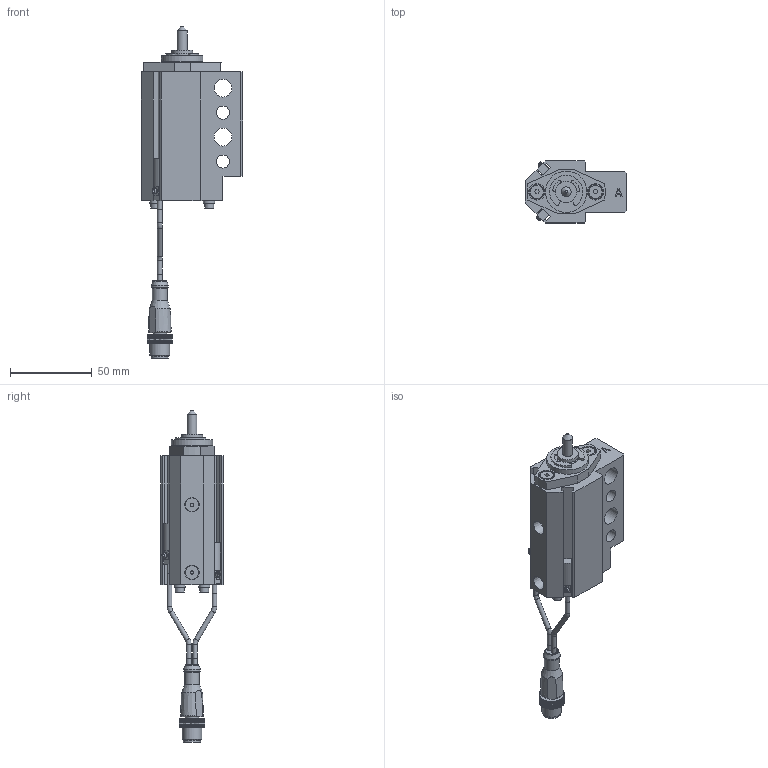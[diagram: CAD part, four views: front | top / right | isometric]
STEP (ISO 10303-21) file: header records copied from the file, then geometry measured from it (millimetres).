
FILE_DESCRIPTION(/* description */ ('NAAMS FLOATING MICRO PIN'),/* implementation_level */ '2;1');
FILE_NAME(/* name */ 'C:\Vault Workspace\CAD\Welker\Shot Pin\NMP\NMP060012AANL3.stp',/* time_stamp */ '2021-01-27T08:26:56-05:00',/* author */ ('KLabrecque'),/* organization */ (''),/* preprocessor_version */ 'ST-DEVELOPER v18.1',/* originating_system */ 'Autodesk Inventor 2020',/* authorisation */ '');
FILE_SCHEMA (('AUTOMOTIVE_DESIGN { 1 0 10303 214 3 1 1 }'));
Length unit declared in the file: millimetre
Products named in the file (16): NMPL01; NMP L3 SWITCH; L3 Connector; L3 Sensor 1; L3 Sensor 2; L3 Sensor cable; L3 Sensor cable 2; M3X0.5-8 SHCS; NL3; NMPE06; NMPE03; NMPE05-DIA-LENGTH; 985432A218; NMPE01A-PORT; RMPE02; M5X5 SHOULDER
Assembly tree (22 placements, depth 3):
  NMPL01
    NMP L3 SWITCH
      L3 Connector
      L3 Sensor 1
      L3 Sensor 2
      L3 Sensor cable
      L3 Sensor cable 2
    M3X0.5-8 SHCS  x4
    NL3  x4
    NMPE06
    NMPE03
    NMPE05-DIA-LENGTH
    985432A218
    NMPE01A-PORT
    RMPE02
    M5X5 SHOULDER  x2
Bounding box: 62 x 38.1 x 203.54 mm (x, y, z)
Volume: 108189.2 mm3; surface area: 45296.5 mm2
Topology: 21 solids, 21 shells, 744 faces, 2018 edges, 1349 vertices
Faces by surface type: plane 553, cylinder 144, cone 31, torus 11, sphere 3, bspline 2
Full cylindrical faces by diameter (mm): 2 x2, 2.459 x4, 2.9 x10, 3 x5, 3.242 x2, 3.4 x4, 4 x2, 5 x6, 5.5 x4, 6 x1, 7 x4, 8 x2, 8.3 x2, 9 x3, 10 x3, 10.4 x1, 10.5 x1, 11 x2, 12 x1, 13 x3, 16 x2, 19.05 x3, 21 x1, 22.5 x1, 23.672 x1, 24 x1, 25.4 x1, 25.5 x1, 26.5 x1, 28.677 x1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
Entity records: 22752 total; most frequent: CARTESIAN_POINT 4155, ORIENTED_EDGE 3734, DIRECTION 3717, EDGE_CURVE 1867, LINE 1383, VECTOR 1383, VERTEX_POINT 1254, AXIS2_PLACEMENT_3D 1167
